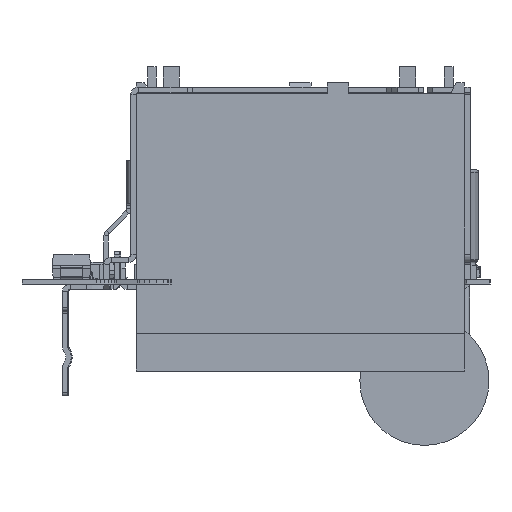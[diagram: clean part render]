
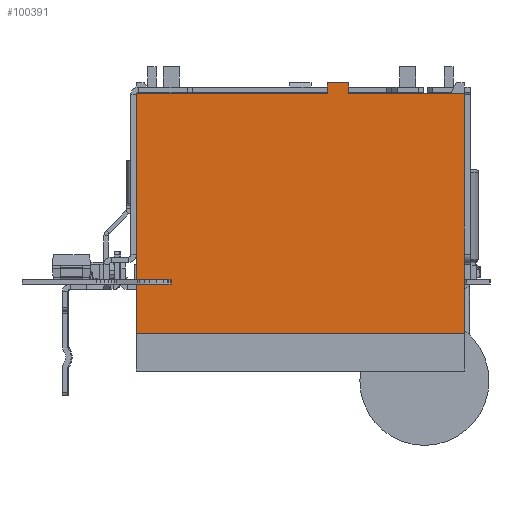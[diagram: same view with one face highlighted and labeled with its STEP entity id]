
A CAD part, left-side view. The second image highlights one B-rep face of the part: STEP entity #100391.
In plain terms, the highlighted planar face has unit normal (-1, 0, 0) as drawn and (0, 0, -1) by its records, which use the part's own axes.
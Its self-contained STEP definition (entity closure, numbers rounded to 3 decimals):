
#90148 = PLANE('',#90149);
#90149 = AXIS2_PLACEMENT_3D('',#90150,#90151,#90152);
#90150 = CARTESIAN_POINT('',(0.,1.,0.));
#90151 = DIRECTION('',(0.,-1.,0.));
#90152 = DIRECTION('',(0.,0.,-1.));
#91440 = PLANE('',#91441);
#91441 = AXIS2_PLACEMENT_3D('',#91442,#91443,#91444);
#91442 = CARTESIAN_POINT('',(15.25,11.65,0.));
#91443 = DIRECTION('',(-1.,0.,0.));
#91444 = DIRECTION('',(0.,0.,1.));
#91496 = PLANE('',#91497);
#91497 = AXIS2_PLACEMENT_3D('',#91498,#91499,#91500);
#91498 = CARTESIAN_POINT('',(-15.25,11.65,0.));
#91499 = DIRECTION('',(1.,0.,0.));
#91500 = DIRECTION('',(0.,1.,0.));
#100260 = VERTEX_POINT('',#100261);
#100261 = CARTESIAN_POINT('',(-15.25,23.3,-8.));
#100275 = PLANE('',#100276);
#100276 = AXIS2_PLACEMENT_3D('',#100277,#100278,#100279);
#100277 = CARTESIAN_POINT('',(0.,23.3,0.));
#100278 = DIRECTION('',(0.,-1.,0.));
#100279 = DIRECTION('',(0.,0.,-1.));
#100287 = EDGE_CURVE('',#100288,#100260,#100290,.T.);
#100288 = VERTEX_POINT('',#100289);
#100289 = CARTESIAN_POINT('',(-15.25,1.,-8.));
#100290 = SURFACE_CURVE('',#100291,(#100295,#100302),.PCURVE_S1.);
#100291 = LINE('',#100292,#100293);
#100292 = CARTESIAN_POINT('',(-15.25,11.65,-8.));
#100293 = VECTOR('',#100294,1.);
#100294 = DIRECTION('',(0.,1.,0.));
#100295 = PCURVE('',#91496,#100296);
#100296 = DEFINITIONAL_REPRESENTATION('',(#100297),#100301);
#100297 = LINE('',#100298,#100299);
#100298 = CARTESIAN_POINT('',(0.,-8.));
#100299 = VECTOR('',#100300,1.);
#100300 = DIRECTION('',(1.,0.));
#100301 = ( GEOMETRIC_REPRESENTATION_CONTEXT(2) 
PARAMETRIC_REPRESENTATION_CONTEXT() REPRESENTATION_CONTEXT('2D SPACE',''
  ) );
#100302 = PCURVE('',#100303,#100308);
#100303 = PLANE('',#100304);
#100304 = AXIS2_PLACEMENT_3D('',#100305,#100306,#100307);
#100305 = CARTESIAN_POINT('',(0.,11.65,-8.));
#100306 = DIRECTION('',(0.,0.,1.));
#100307 = DIRECTION('',(1.,0.,0.));
#100308 = DEFINITIONAL_REPRESENTATION('',(#100309),#100313);
#100309 = LINE('',#100310,#100311);
#100310 = CARTESIAN_POINT('',(-15.25,0.));
#100311 = VECTOR('',#100312,1.);
#100312 = DIRECTION('',(0.,1.));
#100313 = ( GEOMETRIC_REPRESENTATION_CONTEXT(2) 
PARAMETRIC_REPRESENTATION_CONTEXT() REPRESENTATION_CONTEXT('2D SPACE',''
  ) );
#100391 = ADVANCED_FACE('',(#100392),#100303,.F.);
#100392 = FACE_BOUND('',#100393,.T.);
#100393 = EDGE_LOOP('',(#100394,#100424,#100445,#100446,#100469,#100492,
    #100515,#100543));
#100394 = ORIENTED_EDGE('',*,*,#100395,.F.);
#100395 = EDGE_CURVE('',#100396,#100398,#100400,.T.);
#100396 = VERTEX_POINT('',#100397);
#100397 = CARTESIAN_POINT('',(2.5,1.,-8.));
#100398 = VERTEX_POINT('',#100399);
#100399 = CARTESIAN_POINT('',(2.5,0.,-8.));
#100400 = SURFACE_CURVE('',#100401,(#100405,#100412),.PCURVE_S1.);
#100401 = LINE('',#100402,#100403);
#100402 = CARTESIAN_POINT('',(2.5,1.,-8.));
#100403 = VECTOR('',#100404,1.);
#100404 = DIRECTION('',(0.,-1.,0.));
#100405 = PCURVE('',#100303,#100406);
#100406 = DEFINITIONAL_REPRESENTATION('',(#100407),#100411);
#100407 = LINE('',#100408,#100409);
#100408 = CARTESIAN_POINT('',(2.5,-10.65));
#100409 = VECTOR('',#100410,1.);
#100410 = DIRECTION('',(0.,-1.));
#100411 = ( GEOMETRIC_REPRESENTATION_CONTEXT(2) 
PARAMETRIC_REPRESENTATION_CONTEXT() REPRESENTATION_CONTEXT('2D SPACE',''
  ) );
#100412 = PCURVE('',#100413,#100418);
#100413 = PLANE('',#100414);
#100414 = AXIS2_PLACEMENT_3D('',#100415,#100416,#100417);
#100415 = CARTESIAN_POINT('',(2.5,1.,0.));
#100416 = DIRECTION('',(-1.,0.,0.));
#100417 = DIRECTION('',(0.,0.,1.));
#100418 = DEFINITIONAL_REPRESENTATION('',(#100419),#100423);
#100419 = LINE('',#100420,#100421);
#100420 = CARTESIAN_POINT('',(-8.,0.));
#100421 = VECTOR('',#100422,1.);
#100422 = DIRECTION('',(0.,-1.));
#100423 = ( GEOMETRIC_REPRESENTATION_CONTEXT(2) 
PARAMETRIC_REPRESENTATION_CONTEXT() REPRESENTATION_CONTEXT('2D SPACE',''
  ) );
#100424 = ORIENTED_EDGE('',*,*,#100425,.F.);
#100425 = EDGE_CURVE('',#100288,#100396,#100426,.T.);
#100426 = SURFACE_CURVE('',#100427,(#100431,#100438),.PCURVE_S1.);
#100427 = LINE('',#100428,#100429);
#100428 = CARTESIAN_POINT('',(0.,1.,-8.));
#100429 = VECTOR('',#100430,1.);
#100430 = DIRECTION('',(1.,0.,0.));
#100431 = PCURVE('',#100303,#100432);
#100432 = DEFINITIONAL_REPRESENTATION('',(#100433),#100437);
#100433 = LINE('',#100434,#100435);
#100434 = CARTESIAN_POINT('',(0.,-10.65));
#100435 = VECTOR('',#100436,1.);
#100436 = DIRECTION('',(1.,0.));
#100437 = ( GEOMETRIC_REPRESENTATION_CONTEXT(2) 
PARAMETRIC_REPRESENTATION_CONTEXT() REPRESENTATION_CONTEXT('2D SPACE',''
  ) );
#100438 = PCURVE('',#90148,#100439);
#100439 = DEFINITIONAL_REPRESENTATION('',(#100440),#100444);
#100440 = LINE('',#100441,#100442);
#100441 = CARTESIAN_POINT('',(8.,0.));
#100442 = VECTOR('',#100443,1.);
#100443 = DIRECTION('',(0.,1.));
#100444 = ( GEOMETRIC_REPRESENTATION_CONTEXT(2) 
PARAMETRIC_REPRESENTATION_CONTEXT() REPRESENTATION_CONTEXT('2D SPACE',''
  ) );
#100445 = ORIENTED_EDGE('',*,*,#100287,.T.);
#100446 = ORIENTED_EDGE('',*,*,#100447,.T.);
#100447 = EDGE_CURVE('',#100260,#100448,#100450,.T.);
#100448 = VERTEX_POINT('',#100449);
#100449 = CARTESIAN_POINT('',(15.25,23.3,-8.));
#100450 = SURFACE_CURVE('',#100451,(#100455,#100462),.PCURVE_S1.);
#100451 = LINE('',#100452,#100453);
#100452 = CARTESIAN_POINT('',(0.,23.3,-8.));
#100453 = VECTOR('',#100454,1.);
#100454 = DIRECTION('',(1.,0.,0.));
#100455 = PCURVE('',#100303,#100456);
#100456 = DEFINITIONAL_REPRESENTATION('',(#100457),#100461);
#100457 = LINE('',#100458,#100459);
#100458 = CARTESIAN_POINT('',(0.,11.65));
#100459 = VECTOR('',#100460,1.);
#100460 = DIRECTION('',(1.,0.));
#100461 = ( GEOMETRIC_REPRESENTATION_CONTEXT(2) 
PARAMETRIC_REPRESENTATION_CONTEXT() REPRESENTATION_CONTEXT('2D SPACE',''
  ) );
#100462 = PCURVE('',#100275,#100463);
#100463 = DEFINITIONAL_REPRESENTATION('',(#100464),#100468);
#100464 = LINE('',#100465,#100466);
#100465 = CARTESIAN_POINT('',(8.,0.));
#100466 = VECTOR('',#100467,1.);
#100467 = DIRECTION('',(0.,1.));
#100468 = ( GEOMETRIC_REPRESENTATION_CONTEXT(2) 
PARAMETRIC_REPRESENTATION_CONTEXT() REPRESENTATION_CONTEXT('2D SPACE',''
  ) );
#100469 = ORIENTED_EDGE('',*,*,#100470,.T.);
#100470 = EDGE_CURVE('',#100448,#100471,#100473,.T.);
#100471 = VERTEX_POINT('',#100472);
#100472 = CARTESIAN_POINT('',(15.25,1.,-8.));
#100473 = SURFACE_CURVE('',#100474,(#100478,#100485),.PCURVE_S1.);
#100474 = LINE('',#100475,#100476);
#100475 = CARTESIAN_POINT('',(15.25,11.65,-8.));
#100476 = VECTOR('',#100477,1.);
#100477 = DIRECTION('',(0.,-1.,0.));
#100478 = PCURVE('',#100303,#100479);
#100479 = DEFINITIONAL_REPRESENTATION('',(#100480),#100484);
#100480 = LINE('',#100481,#100482);
#100481 = CARTESIAN_POINT('',(15.25,0.));
#100482 = VECTOR('',#100483,1.);
#100483 = DIRECTION('',(0.,-1.));
#100484 = ( GEOMETRIC_REPRESENTATION_CONTEXT(2) 
PARAMETRIC_REPRESENTATION_CONTEXT() REPRESENTATION_CONTEXT('2D SPACE',''
  ) );
#100485 = PCURVE('',#91440,#100486);
#100486 = DEFINITIONAL_REPRESENTATION('',(#100487),#100491);
#100487 = LINE('',#100488,#100489);
#100488 = CARTESIAN_POINT('',(-8.,0.));
#100489 = VECTOR('',#100490,1.);
#100490 = DIRECTION('',(0.,-1.));
#100491 = ( GEOMETRIC_REPRESENTATION_CONTEXT(2) 
PARAMETRIC_REPRESENTATION_CONTEXT() REPRESENTATION_CONTEXT('2D SPACE',''
  ) );
#100492 = ORIENTED_EDGE('',*,*,#100493,.F.);
#100493 = EDGE_CURVE('',#100494,#100471,#100496,.T.);
#100494 = VERTEX_POINT('',#100495);
#100495 = CARTESIAN_POINT('',(4.5,1.,-8.));
#100496 = SURFACE_CURVE('',#100497,(#100501,#100508),.PCURVE_S1.);
#100497 = LINE('',#100498,#100499);
#100498 = CARTESIAN_POINT('',(0.,1.,-8.));
#100499 = VECTOR('',#100500,1.);
#100500 = DIRECTION('',(1.,0.,0.));
#100501 = PCURVE('',#100303,#100502);
#100502 = DEFINITIONAL_REPRESENTATION('',(#100503),#100507);
#100503 = LINE('',#100504,#100505);
#100504 = CARTESIAN_POINT('',(0.,-10.65));
#100505 = VECTOR('',#100506,1.);
#100506 = DIRECTION('',(1.,0.));
#100507 = ( GEOMETRIC_REPRESENTATION_CONTEXT(2) 
PARAMETRIC_REPRESENTATION_CONTEXT() REPRESENTATION_CONTEXT('2D SPACE',''
  ) );
#100508 = PCURVE('',#90148,#100509);
#100509 = DEFINITIONAL_REPRESENTATION('',(#100510),#100514);
#100510 = LINE('',#100511,#100512);
#100511 = CARTESIAN_POINT('',(8.,0.));
#100512 = VECTOR('',#100513,1.);
#100513 = DIRECTION('',(0.,1.));
#100514 = ( GEOMETRIC_REPRESENTATION_CONTEXT(2) 
PARAMETRIC_REPRESENTATION_CONTEXT() REPRESENTATION_CONTEXT('2D SPACE',''
  ) );
#100515 = ORIENTED_EDGE('',*,*,#100516,.T.);
#100516 = EDGE_CURVE('',#100494,#100517,#100519,.T.);
#100517 = VERTEX_POINT('',#100518);
#100518 = CARTESIAN_POINT('',(4.5,0.,-8.));
#100519 = SURFACE_CURVE('',#100520,(#100524,#100531),.PCURVE_S1.);
#100520 = LINE('',#100521,#100522);
#100521 = CARTESIAN_POINT('',(4.5,1.,-8.));
#100522 = VECTOR('',#100523,1.);
#100523 = DIRECTION('',(0.,-1.,0.));
#100524 = PCURVE('',#100303,#100525);
#100525 = DEFINITIONAL_REPRESENTATION('',(#100526),#100530);
#100526 = LINE('',#100527,#100528);
#100527 = CARTESIAN_POINT('',(4.5,-10.65));
#100528 = VECTOR('',#100529,1.);
#100529 = DIRECTION('',(0.,-1.));
#100530 = ( GEOMETRIC_REPRESENTATION_CONTEXT(2) 
PARAMETRIC_REPRESENTATION_CONTEXT() REPRESENTATION_CONTEXT('2D SPACE',''
  ) );
#100531 = PCURVE('',#100532,#100537);
#100532 = PLANE('',#100533);
#100533 = AXIS2_PLACEMENT_3D('',#100534,#100535,#100536);
#100534 = CARTESIAN_POINT('',(4.5,1.,0.));
#100535 = DIRECTION('',(-1.,0.,0.));
#100536 = DIRECTION('',(0.,0.,1.));
#100537 = DEFINITIONAL_REPRESENTATION('',(#100538),#100542);
#100538 = LINE('',#100539,#100540);
#100539 = CARTESIAN_POINT('',(-8.,0.));
#100540 = VECTOR('',#100541,1.);
#100541 = DIRECTION('',(0.,-1.));
#100542 = ( GEOMETRIC_REPRESENTATION_CONTEXT(2) 
PARAMETRIC_REPRESENTATION_CONTEXT() REPRESENTATION_CONTEXT('2D SPACE',''
  ) );
#100543 = ORIENTED_EDGE('',*,*,#100544,.T.);
#100544 = EDGE_CURVE('',#100517,#100398,#100545,.T.);
#100545 = SURFACE_CURVE('',#100546,(#100550,#100557),.PCURVE_S1.);
#100546 = LINE('',#100547,#100548);
#100547 = CARTESIAN_POINT('',(0.,0.,-8.));
#100548 = VECTOR('',#100549,1.);
#100549 = DIRECTION('',(-1.,0.,0.));
#100550 = PCURVE('',#100303,#100551);
#100551 = DEFINITIONAL_REPRESENTATION('',(#100552),#100556);
#100552 = LINE('',#100553,#100554);
#100553 = CARTESIAN_POINT('',(0.,-11.65));
#100554 = VECTOR('',#100555,1.);
#100555 = DIRECTION('',(-1.,0.));
#100556 = ( GEOMETRIC_REPRESENTATION_CONTEXT(2) 
PARAMETRIC_REPRESENTATION_CONTEXT() REPRESENTATION_CONTEXT('2D SPACE',''
  ) );
#100557 = PCURVE('',#100558,#100563);
#100558 = PLANE('',#100559);
#100559 = AXIS2_PLACEMENT_3D('',#100560,#100561,#100562);
#100560 = CARTESIAN_POINT('',(0.,0.,0.));
#100561 = DIRECTION('',(0.,1.,0.));
#100562 = DIRECTION('',(1.,0.,0.));
#100563 = DEFINITIONAL_REPRESENTATION('',(#100564),#100568);
#100564 = LINE('',#100565,#100566);
#100565 = CARTESIAN_POINT('',(0.,8.));
#100566 = VECTOR('',#100567,1.);
#100567 = DIRECTION('',(-1.,0.));
#100568 = ( GEOMETRIC_REPRESENTATION_CONTEXT(2) 
PARAMETRIC_REPRESENTATION_CONTEXT() REPRESENTATION_CONTEXT('2D SPACE',''
  ) );
